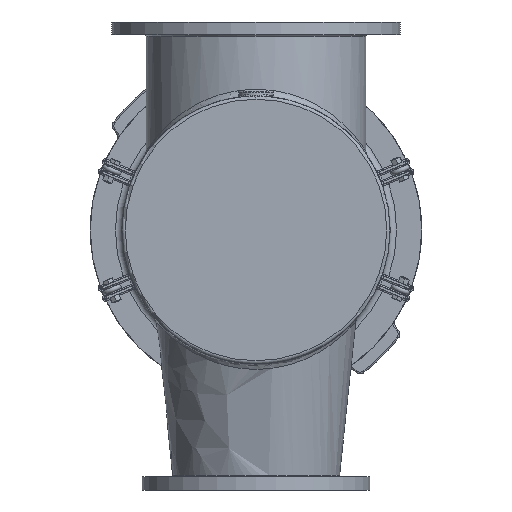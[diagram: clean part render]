
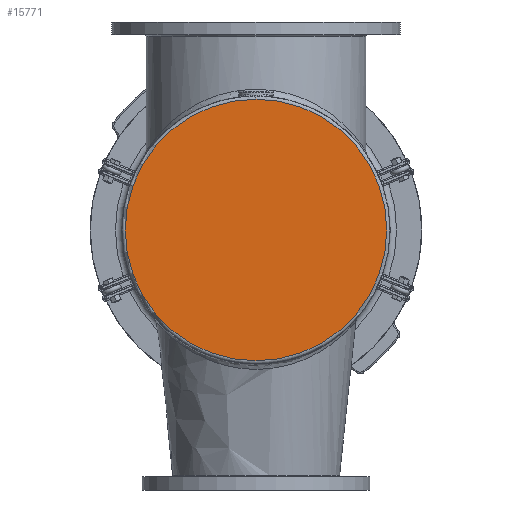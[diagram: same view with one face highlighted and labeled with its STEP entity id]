
A CAD part, front view. The second image highlights one B-rep face of the part: STEP entity #15771.
In plain terms, the highlighted planar face has unit normal (0, -1, 0).
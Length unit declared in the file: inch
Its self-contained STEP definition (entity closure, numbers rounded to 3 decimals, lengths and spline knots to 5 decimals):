
#2254=PLANE('',#16825);
#3591=FACE_OUTER_BOUND('',#4599,.T.);
#4599=EDGE_LOOP('',(#10524));
#5839=CIRCLE('',#16817,10.0625);
#6801=VERTEX_POINT('',#24025);
#8237=EDGE_CURVE('',#6801,#6801,#5839,.T.);
#10524=ORIENTED_EDGE('',*,*,#8237,.F.);
#15771=ADVANCED_FACE('',(#3591),#2254,.F.);
#16817=AXIS2_PLACEMENT_3D('',#24026,#18859,#18860);
#16825=AXIS2_PLACEMENT_3D('',#24037,#18875,#18876);
#18859=DIRECTION('center_axis',(0.,1.,0.));
#18860=DIRECTION('ref_axis',(1.,0.,0.));
#18875=DIRECTION('center_axis',(0.,1.,0.));
#18876=DIRECTION('ref_axis',(0.,0.,1.));
#24025=CARTESIAN_POINT('',(-10.0625,0.,0.));
#24026=CARTESIAN_POINT('Origin',(0.,0.,0.));
#24037=CARTESIAN_POINT('Origin',(0.,0.,0.));
